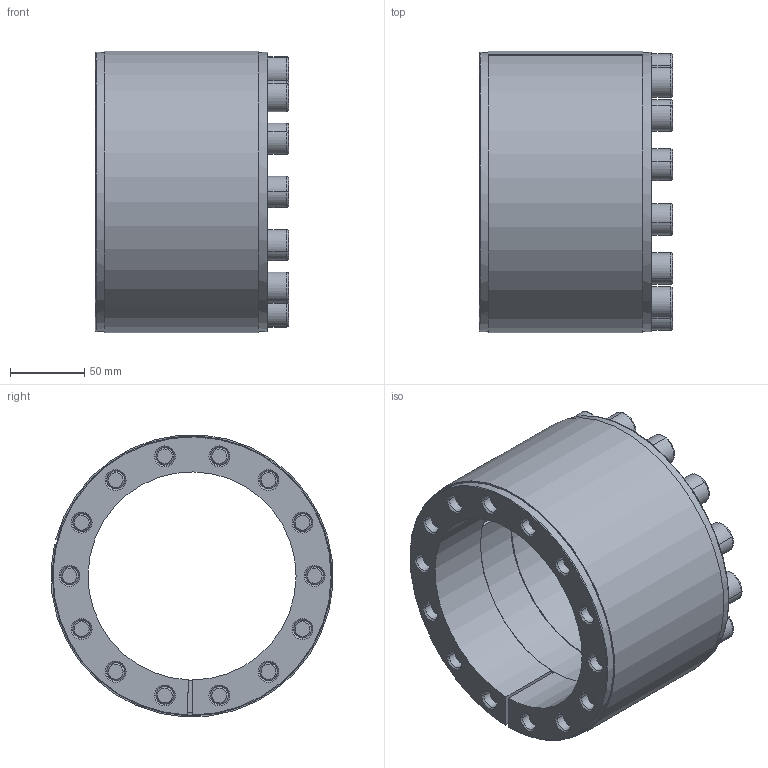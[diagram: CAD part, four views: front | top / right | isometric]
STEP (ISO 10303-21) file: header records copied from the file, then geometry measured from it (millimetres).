
FILE_DESCRIPTION((''),'2;1');
FILE_NAME('398-016-0140','2024-02-19T',('Brieden'),('Brieden'),'PRO/ENGINEER BY PARAMETRIC TECHNOLOGY CORPORATION, 2010160','PRO/ENGINEER BY PARAMETRIC TECHNOLOGY CORPORATION, 2010160','');
FILE_SCHEMA(('AUTOMOTIVE_DESIGN { 1 0 10303 214 1 1 1 1 }'));
Length unit declared in the file: millimetre
Products named in the file (1): 398-016-0140
Bounding box: 130 x 189.66 x 189.55 mm (x, y, z)
Volume: 1456448.5 mm3; surface area: 421158.2 mm2
Topology: 2 solids, 16 shells, 458 faces, 1100 edges, 704 vertices
Faces by surface type: cylinder 186, plane 154, cone 88, torus 30
Entity records: 17108 total; most frequent: DIRECTION 2572, CARTESIAN_POINT 2265, ORIENTED_EDGE 2144, PRESENTATION_STYLE_ASSIGNMENT 1124, STYLED_ITEM 1116, CURVE_STYLE 1100, EDGE_CURVE 1100, AXIS2_PLACEMENT_3D 1011
